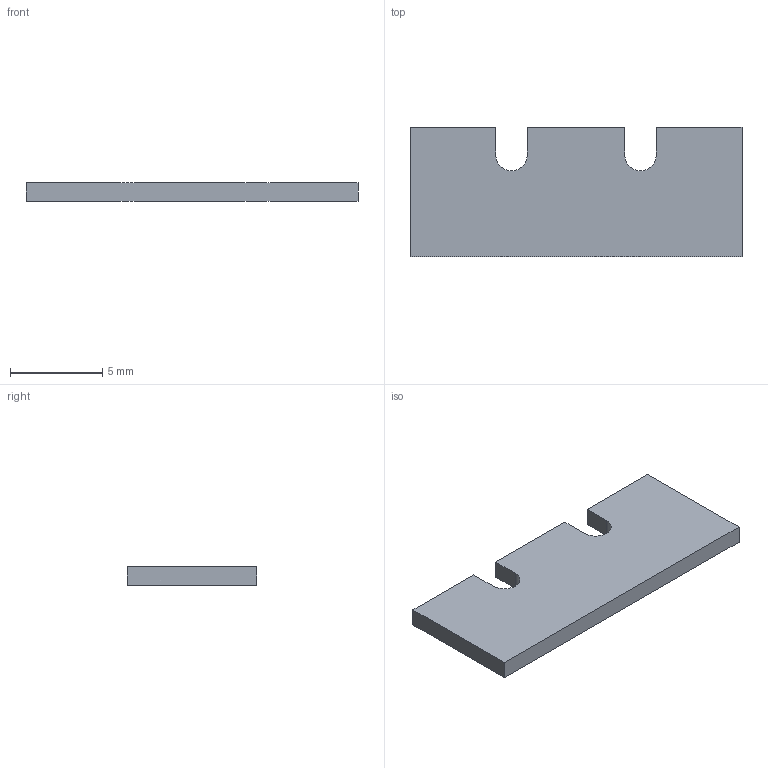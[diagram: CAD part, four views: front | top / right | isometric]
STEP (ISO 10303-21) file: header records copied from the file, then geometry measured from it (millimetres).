
FILE_DESCRIPTION(('Open CASCADE Model'),'2;1');
FILE_NAME('Open CASCADE Shape Model','2026-10-30T11:48:03',('Author'),( 'Open CASCADE'),'Open CASCADE STEP processor 7.9','Open CASCADE 7.9' ,'Unknown');
FILE_SCHEMA(('AUTOMOTIVE_DESIGN { 1 0 10303 214 1 1 1 1 }'));
Length unit declared in the file: millimetre
Products named in the file (1): Open CASCADE STEP translator 7.9 5
Bounding box: 18 x 7 x 1 mm (x, y, z)
Volume: 118.6 mm3; surface area: 295.2 mm2
Topology: 1 solids, 1 shells, 14 faces, 36 edges, 24 vertices
Faces by surface type: plane 12, cylinder 2
Entity records: 890 total; most frequent: CARTESIAN_POINT 195, DIRECTION 114, LINE 76, VECTOR 76, ORIENTED_EDGE 72, PCURVE 72, DEFINITIONAL_REPRESENTATION 72, EDGE_CURVE 36
